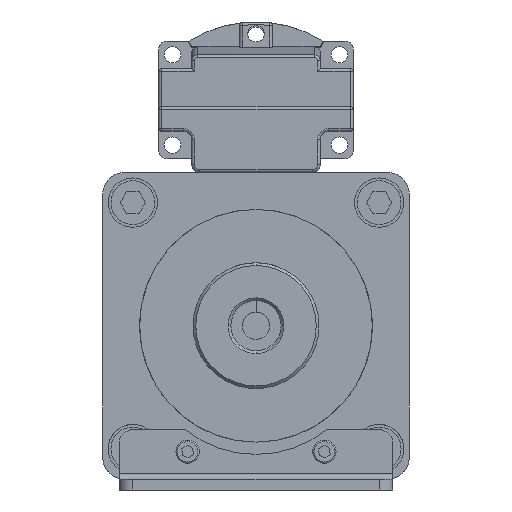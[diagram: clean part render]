
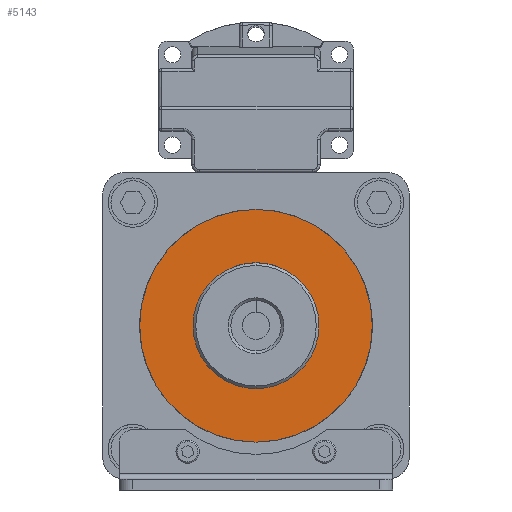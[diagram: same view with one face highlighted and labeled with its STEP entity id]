
A CAD part, front view. The second image highlights one B-rep face of the part: STEP entity #5143.
In plain terms, the highlighted planar face has unit normal (0, -1, 0).
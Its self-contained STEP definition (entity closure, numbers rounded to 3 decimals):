
#756 = AXIS2_PLACEMENT_3D ( 'NONE', #5531, #13143, #6649 ) ;
#1074 = EDGE_CURVE ( 'NONE', #13695, #1897, #13261, .T. ) ;
#1268 = DIRECTION ( 'NONE',  ( 0., 0., -1. ) ) ;
#1833 = CARTESIAN_POINT ( 'NONE',  ( 0., -124.5, -56. ) ) ;
#1897 = VERTEX_POINT ( 'NONE', #11779 ) ;
#2010 = DIRECTION ( 'NONE',  ( 0., -1., 0. ) ) ;
#2976 = DIRECTION ( 'NONE',  ( 0., 0., -1. ) ) ;
#3088 = CARTESIAN_POINT ( 'NONE',  ( 0., -124.5, -79. ) ) ;
#3215 = AXIS2_PLACEMENT_3D ( 'NONE', #13288, #7074, #13082 ) ;
#3259 = EDGE_LOOP ( 'NONE', ( #13688, #9619 ) ) ;
#4813 = CIRCLE ( 'NONE', #756, 23. ) ;
#5143 = ADVANCED_FACE ( 'NONE', ( #6958, #12711 ), #5425, .T. ) ;
#5425 = PLANE ( 'NONE',  #6101 ) ;
#5531 = CARTESIAN_POINT ( 'NONE',  ( 0., -124.5, -56. ) ) ;
#5841 = DIRECTION ( 'NONE',  ( 0., -1., 0. ) ) ;
#6060 = CARTESIAN_POINT ( 'NONE',  ( 0., -124.5, -98.5 ) ) ;
#6101 = AXIS2_PLACEMENT_3D ( 'NONE', #6060, #2010, #1268 ) ;
#6649 = DIRECTION ( 'NONE',  ( 0., 0., -1. ) ) ;
#6958 = FACE_OUTER_BOUND ( 'NONE', #9977, .T. ) ;
#7074 = DIRECTION ( 'NONE',  ( 0., -1., 0. ) ) ;
#8148 = CARTESIAN_POINT ( 'NONE',  ( 0., -124.5, -13.5 ) ) ;
#9592 = DIRECTION ( 'NONE',  ( 0., -1., 0. ) ) ;
#9619 = ORIENTED_EDGE ( 'NONE', *, *, #14013, .F. ) ;
#9643 = ORIENTED_EDGE ( 'NONE', *, *, #10181, .T. ) ;
#9821 = VERTEX_POINT ( 'NONE', #12179 ) ;
#9889 = EDGE_CURVE ( 'NONE', #13933, #9821, #11265, .T. ) ;
#9977 = EDGE_LOOP ( 'NONE', ( #9643, #10684 ) ) ;
#10181 = EDGE_CURVE ( 'NONE', #1897, #13695, #12767, .T. ) ;
#10684 = ORIENTED_EDGE ( 'NONE', *, *, #1074, .T. ) ;
#11265 = CIRCLE ( 'NONE', #12330, 23. ) ;
#11779 = CARTESIAN_POINT ( 'NONE',  ( 0., -124.5, -98.5 ) ) ;
#12179 = CARTESIAN_POINT ( 'NONE',  ( 0., -124.5, -33. ) ) ;
#12330 = AXIS2_PLACEMENT_3D ( 'NONE', #12355, #5841, #13436 ) ;
#12355 = CARTESIAN_POINT ( 'NONE',  ( 0., -124.5, -56. ) ) ;
#12661 = AXIS2_PLACEMENT_3D ( 'NONE', #1833, #9592, #2976 ) ;
#12711 = FACE_BOUND ( 'NONE', #3259, .T. ) ;
#12767 = CIRCLE ( 'NONE', #12661, 42.5 ) ;
#13082 = DIRECTION ( 'NONE',  ( 0., 0., -1. ) ) ;
#13143 = DIRECTION ( 'NONE',  ( 0., -1., 0. ) ) ;
#13261 = CIRCLE ( 'NONE', #3215, 42.5 ) ;
#13288 = CARTESIAN_POINT ( 'NONE',  ( 0., -124.5, -56. ) ) ;
#13436 = DIRECTION ( 'NONE',  ( 0., 0., -1. ) ) ;
#13688 = ORIENTED_EDGE ( 'NONE', *, *, #9889, .F. ) ;
#13695 = VERTEX_POINT ( 'NONE', #8148 ) ;
#13933 = VERTEX_POINT ( 'NONE', #3088 ) ;
#14013 = EDGE_CURVE ( 'NONE', #9821, #13933, #4813, .T. ) ;
